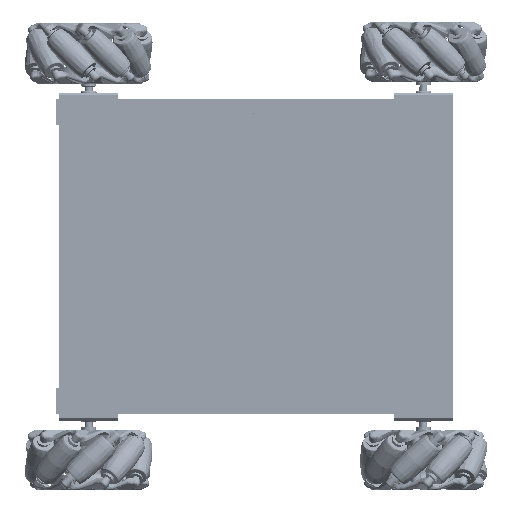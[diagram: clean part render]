
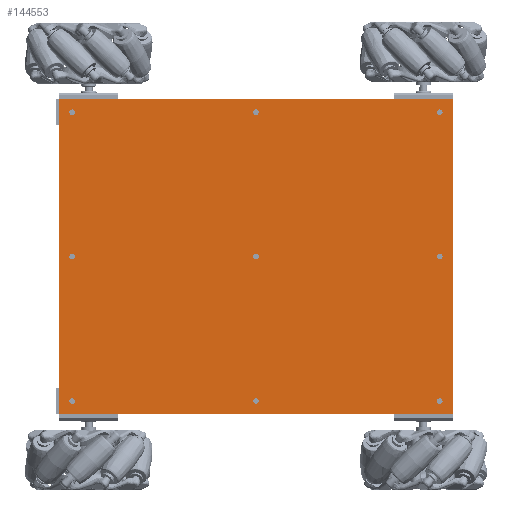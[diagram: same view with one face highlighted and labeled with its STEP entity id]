
A CAD part, front view. The second image highlights one B-rep face of the part: STEP entity #144553.
In plain terms, the highlighted planar face has unit normal (0, -1, 0).
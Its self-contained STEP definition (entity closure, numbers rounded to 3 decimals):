
#13026=FACE_BOUND('',#23214,.T.);
#13027=FACE_BOUND('',#23215,.T.);
#13028=FACE_BOUND('',#23216,.T.);
#13029=FACE_BOUND('',#23217,.T.);
#13030=FACE_BOUND('',#23218,.T.);
#13031=FACE_BOUND('',#23219,.T.);
#13032=FACE_BOUND('',#23220,.T.);
#13033=FACE_BOUND('',#23221,.T.);
#13034=FACE_BOUND('',#23222,.T.);
#14350=FACE_OUTER_BOUND('',#23213,.T.);
#23213=EDGE_LOOP('',(#98707,#98708,#98709,#98710));
#23214=EDGE_LOOP('',(#98711));
#23215=EDGE_LOOP('',(#98712));
#23216=EDGE_LOOP('',(#98713));
#23217=EDGE_LOOP('',(#98714));
#23218=EDGE_LOOP('',(#98715));
#23219=EDGE_LOOP('',(#98716));
#23220=EDGE_LOOP('',(#98717));
#23221=EDGE_LOOP('',(#98718));
#23222=EDGE_LOOP('',(#98719));
#32513=CIRCLE('',#155905,2.15);
#32515=CIRCLE('',#155908,2.15);
#32517=CIRCLE('',#155911,2.15);
#32519=CIRCLE('',#155914,2.15);
#32521=CIRCLE('',#155917,2.15);
#32523=CIRCLE('',#155920,2.15);
#32525=CIRCLE('',#155923,2.15);
#32527=CIRCLE('',#155926,2.15);
#32529=CIRCLE('',#155929,2.15);
#39031=LINE('',#212876,#50375);
#39035=LINE('',#212884,#50379);
#39038=LINE('',#212890,#50382);
#39041=LINE('',#212895,#50385);
#50375=VECTOR('',#172317,10.);
#50379=VECTOR('',#172323,10.);
#50382=VECTOR('',#172328,10.);
#50385=VECTOR('',#172333,10.);
#61479=VERTEX_POINT('',#212820);
#61481=VERTEX_POINT('',#212826);
#61483=VERTEX_POINT('',#212832);
#61485=VERTEX_POINT('',#212838);
#61487=VERTEX_POINT('',#212844);
#61489=VERTEX_POINT('',#212850);
#61491=VERTEX_POINT('',#212856);
#61493=VERTEX_POINT('',#212862);
#61495=VERTEX_POINT('',#212868);
#61497=VERTEX_POINT('',#212874);
#61498=VERTEX_POINT('',#212875);
#61501=VERTEX_POINT('',#212883);
#61503=VERTEX_POINT('',#212889);
#75437=EDGE_CURVE('',#61479,#61479,#32513,.T.);
#75440=EDGE_CURVE('',#61481,#61481,#32515,.T.);
#75443=EDGE_CURVE('',#61483,#61483,#32517,.T.);
#75446=EDGE_CURVE('',#61485,#61485,#32519,.T.);
#75449=EDGE_CURVE('',#61487,#61487,#32521,.T.);
#75452=EDGE_CURVE('',#61489,#61489,#32523,.T.);
#75455=EDGE_CURVE('',#61491,#61491,#32525,.T.);
#75458=EDGE_CURVE('',#61493,#61493,#32527,.T.);
#75461=EDGE_CURVE('',#61495,#61495,#32529,.T.);
#75464=EDGE_CURVE('',#61497,#61498,#39031,.T.);
#75468=EDGE_CURVE('',#61501,#61497,#39035,.T.);
#75471=EDGE_CURVE('',#61503,#61501,#39038,.T.);
#75474=EDGE_CURVE('',#61498,#61503,#39041,.T.);
#98707=ORIENTED_EDGE('',*,*,#75474,.F.);
#98708=ORIENTED_EDGE('',*,*,#75464,.F.);
#98709=ORIENTED_EDGE('',*,*,#75468,.F.);
#98710=ORIENTED_EDGE('',*,*,#75471,.F.);
#98711=ORIENTED_EDGE('',*,*,#75437,.T.);
#98712=ORIENTED_EDGE('',*,*,#75440,.T.);
#98713=ORIENTED_EDGE('',*,*,#75443,.T.);
#98714=ORIENTED_EDGE('',*,*,#75446,.T.);
#98715=ORIENTED_EDGE('',*,*,#75449,.T.);
#98716=ORIENTED_EDGE('',*,*,#75452,.T.);
#98717=ORIENTED_EDGE('',*,*,#75455,.T.);
#98718=ORIENTED_EDGE('',*,*,#75458,.T.);
#98719=ORIENTED_EDGE('',*,*,#75461,.T.);
#139861=PLANE('',#155936);
#144553=ADVANCED_FACE('',(#14350,#13026,#13027,#13028,#13029,#13030,#13031,
#13032,#13033,#13034),#139861,.F.);
#155905=AXIS2_PLACEMENT_3D('',#212821,#172254,#172255);
#155908=AXIS2_PLACEMENT_3D('',#212827,#172261,#172262);
#155911=AXIS2_PLACEMENT_3D('',#212833,#172268,#172269);
#155914=AXIS2_PLACEMENT_3D('',#212839,#172275,#172276);
#155917=AXIS2_PLACEMENT_3D('',#212845,#172282,#172283);
#155920=AXIS2_PLACEMENT_3D('',#212851,#172289,#172290);
#155923=AXIS2_PLACEMENT_3D('',#212857,#172296,#172297);
#155926=AXIS2_PLACEMENT_3D('',#212863,#172303,#172304);
#155929=AXIS2_PLACEMENT_3D('',#212869,#172310,#172311);
#155936=AXIS2_PLACEMENT_3D('',#212898,#172337,#172338);
#172254=DIRECTION('center_axis',(0.,1.,0.));
#172255=DIRECTION('ref_axis',(1.,0.,0.));
#172261=DIRECTION('center_axis',(0.,1.,0.));
#172262=DIRECTION('ref_axis',(1.,0.,0.));
#172268=DIRECTION('center_axis',(0.,1.,0.));
#172269=DIRECTION('ref_axis',(1.,0.,0.));
#172275=DIRECTION('center_axis',(0.,1.,0.));
#172276=DIRECTION('ref_axis',(1.,0.,0.));
#172282=DIRECTION('center_axis',(0.,1.,0.));
#172283=DIRECTION('ref_axis',(1.,0.,0.));
#172289=DIRECTION('center_axis',(0.,1.,0.));
#172290=DIRECTION('ref_axis',(1.,0.,0.));
#172296=DIRECTION('center_axis',(0.,1.,0.));
#172297=DIRECTION('ref_axis',(1.,0.,0.));
#172303=DIRECTION('center_axis',(0.,1.,0.));
#172304=DIRECTION('ref_axis',(1.,0.,0.));
#172310=DIRECTION('center_axis',(0.,1.,0.));
#172311=DIRECTION('ref_axis',(1.,0.,0.));
#172317=DIRECTION('',(1.,0.,0.));
#172323=DIRECTION('',(0.,0.,1.));
#172328=DIRECTION('',(-1.,0.,0.));
#172333=DIRECTION('',(0.,0.,-1.));
#172337=DIRECTION('center_axis',(0.,1.,0.));
#172338=DIRECTION('ref_axis',(0.,0.,1.));
#212820=CARTESIAN_POINT('',(-2.15,0.,140.));
#212821=CARTESIAN_POINT('Origin',(0.,0.,140.));
#212826=CARTESIAN_POINT('',(-112.15,0.,-140.));
#212827=CARTESIAN_POINT('Origin',(-110.,0.,-140.));
#212832=CARTESIAN_POINT('',(-112.15,0.,0.));
#212833=CARTESIAN_POINT('Origin',(-110.,0.,0.));
#212838=CARTESIAN_POINT('',(-112.15,0.,140.));
#212839=CARTESIAN_POINT('Origin',(-110.,0.,140.));
#212844=CARTESIAN_POINT('',(107.85,0.,140.));
#212845=CARTESIAN_POINT('Origin',(110.,0.,140.));
#212850=CARTESIAN_POINT('',(107.85,0.,0.));
#212851=CARTESIAN_POINT('Origin',(110.,0.,0.));
#212856=CARTESIAN_POINT('',(-2.15,0.,0.));
#212857=CARTESIAN_POINT('Origin',(0.,0.,0.));
#212862=CARTESIAN_POINT('',(-2.15,0.,-140.));
#212863=CARTESIAN_POINT('Origin',(0.,0.,-140.));
#212868=CARTESIAN_POINT('',(107.85,0.,-140.));
#212869=CARTESIAN_POINT('Origin',(110.,0.,-140.));
#212874=CARTESIAN_POINT('',(-120.,0.,150.));
#212875=CARTESIAN_POINT('',(120.,0.,150.));
#212876=CARTESIAN_POINT('',(-120.,0.,150.));
#212883=CARTESIAN_POINT('',(-120.,0.,-150.));
#212884=CARTESIAN_POINT('',(-120.,0.,-150.));
#212889=CARTESIAN_POINT('',(120.,0.,-150.));
#212890=CARTESIAN_POINT('',(120.,0.,-150.));
#212895=CARTESIAN_POINT('',(120.,0.,150.));
#212898=CARTESIAN_POINT('Origin',(0.,0.,0.));
